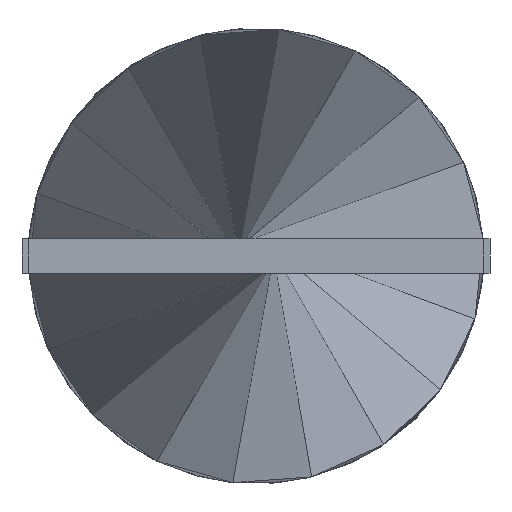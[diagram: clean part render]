
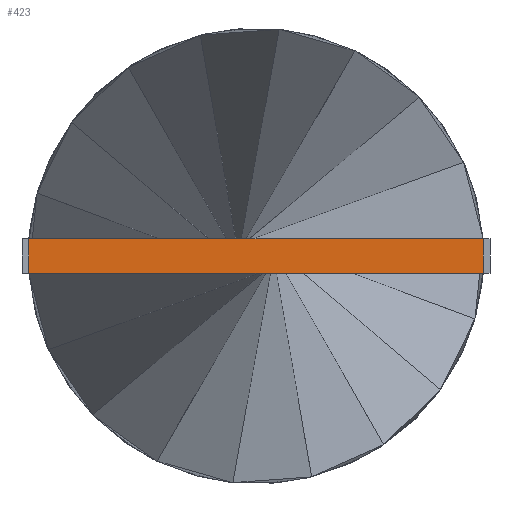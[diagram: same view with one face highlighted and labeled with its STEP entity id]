
A CAD part, front view. The second image highlights one B-rep face of the part: STEP entity #423.
In plain terms, the highlighted planar face has unit normal (0, -1, 0).
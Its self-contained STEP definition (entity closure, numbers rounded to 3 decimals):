
#30 = CARTESIAN_POINT ( 'NONE',  ( 9.9, 0., -0.75 ) ) ;
#100 = EDGE_LOOP ( 'NONE', ( #651, #945, #2083, #921 ) ) ;
#423 = ADVANCED_FACE ( 'NONE', ( #1301 ), #2297, .T. ) ;
#463 = VECTOR ( 'NONE', #960, 1000. ) ;
#482 = CARTESIAN_POINT ( 'NONE',  ( -9.9, 0., -0.75 ) ) ;
#499 = EDGE_CURVE ( 'NONE', #662, #893, #2191, .T. ) ;
#651 = ORIENTED_EDGE ( 'NONE', *, *, #767, .T. ) ;
#662 = VERTEX_POINT ( 'NONE', #1114 ) ;
#720 = EDGE_CURVE ( 'NONE', #1288, #2113, #971, .T. ) ;
#766 = CARTESIAN_POINT ( 'NONE',  ( -9.9, 0., 0.75 ) ) ;
#767 = EDGE_CURVE ( 'NONE', #893, #2113, #2388, .T. ) ;
#810 = CARTESIAN_POINT ( 'NONE',  ( -9.9, 0., -0.75 ) ) ;
#819 = DIRECTION ( 'NONE',  ( 1., 0., 0. ) ) ;
#893 = VERTEX_POINT ( 'NONE', #1626 ) ;
#905 = LINE ( 'NONE', #482, #1330 ) ;
#921 = ORIENTED_EDGE ( 'NONE', *, *, #499, .T. ) ;
#945 = ORIENTED_EDGE ( 'NONE', *, *, #720, .F. ) ;
#960 = DIRECTION ( 'NONE',  ( 0., 0., 1. ) ) ;
#971 = LINE ( 'NONE', #766, #1950 ) ;
#1089 = DIRECTION ( 'NONE',  ( 0., 0., 1. ) ) ;
#1114 = CARTESIAN_POINT ( 'NONE',  ( -9.9, 0., -0.75 ) ) ;
#1269 = AXIS2_PLACEMENT_3D ( 'NONE', #2286, #2277, #2216 ) ;
#1288 = VERTEX_POINT ( 'NONE', #1850 ) ;
#1301 = FACE_OUTER_BOUND ( 'NONE', #100, .T. ) ;
#1330 = VECTOR ( 'NONE', #1089, 1000. ) ;
#1571 = CARTESIAN_POINT ( 'NONE',  ( 9.9, 0., 0.75 ) ) ;
#1626 = CARTESIAN_POINT ( 'NONE',  ( 9.9, 0., -0.75 ) ) ;
#1850 = CARTESIAN_POINT ( 'NONE',  ( -9.9, 0., 0.75 ) ) ;
#1950 = VECTOR ( 'NONE', #2065, 1000. ) ;
#2065 = DIRECTION ( 'NONE',  ( 1., 0., 0. ) ) ;
#2083 = ORIENTED_EDGE ( 'NONE', *, *, #2387, .F. ) ;
#2113 = VERTEX_POINT ( 'NONE', #1571 ) ;
#2191 = LINE ( 'NONE', #810, #2312 ) ;
#2216 = DIRECTION ( 'NONE',  ( 0., 0., -1. ) ) ;
#2277 = DIRECTION ( 'NONE',  ( 0., -1., 0. ) ) ;
#2286 = CARTESIAN_POINT ( 'NONE',  ( -9.9, 0., -0.75 ) ) ;
#2297 = PLANE ( 'NONE',  #1269 ) ;
#2312 = VECTOR ( 'NONE', #819, 1000. ) ;
#2387 = EDGE_CURVE ( 'NONE', #662, #1288, #905, .T. ) ;
#2388 = LINE ( 'NONE', #30, #463 ) ;
